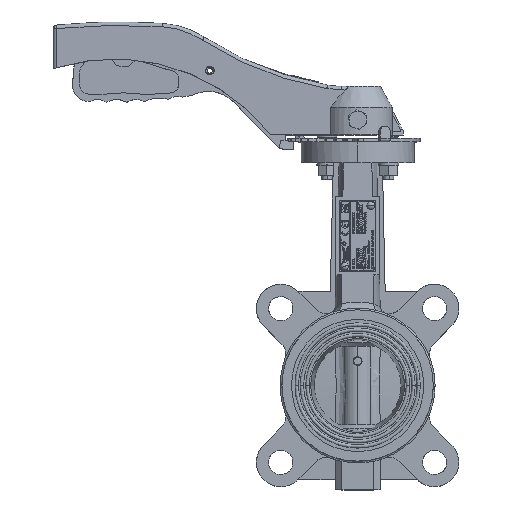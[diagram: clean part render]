
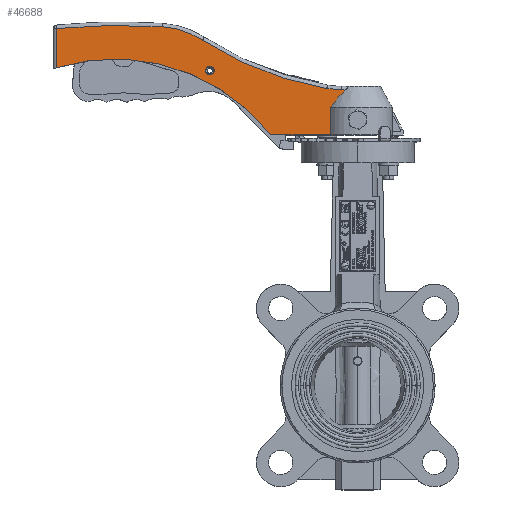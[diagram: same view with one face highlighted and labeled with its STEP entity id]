
A CAD part, top view. The second image highlights one B-rep face of the part: STEP entity #46688.
In plain terms, the highlighted planar face has unit normal (0.003, 0, 1).
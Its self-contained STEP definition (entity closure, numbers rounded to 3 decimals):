
#632 = EDGE_CURVE ( 'NONE', #67588, #65182, #18112, .T. ) ;
#1224 = B_SPLINE_CURVE_WITH_KNOTS ( 'NONE', 3,
 ( #78104, #72272, #72681, #33938, #40648, #14806, #53205, #39821 ),
 .UNSPECIFIED., .F., .F.,
 ( 4, 2, 2, 4 ),
 ( 0., 0.003, 0.007, 0.013 ),
 .UNSPECIFIED. ) ;
#2459 = ORIENTED_EDGE ( 'NONE', *, *, #63568, .F. ) ;
#2718 = EDGE_CURVE ( 'NONE', #50190, #34376, #61790, .T. ) ;
#4566 = CARTESIAN_POINT ( 'NONE',  ( -15.579, 379.049, 12.542 ) ) ;
#5122 = PLANE ( 'NONE',  #82404 ) ;
#6402 = ORIENTED_EDGE ( 'NONE', *, *, #10495, .F. ) ;
#6865 = CARTESIAN_POINT ( 'NONE',  ( -15.579, 144., 12.542 ) ) ;
#7479 = CARTESIAN_POINT ( 'NONE',  ( -132.56, 207.473, 12.853 ) ) ;
#7495 = EDGE_CURVE ( 'NONE', #35796, #81607, #41684, .T. ) ;
#7629 = DIRECTION ( 'NONE',  ( 0.003, 0., 1. ) ) ;
#7812 = DIRECTION ( 'NONE',  ( 0., -1., 0. ) ) ;
#8676 = EDGE_LOOP ( 'NONE', ( #40748, #58801 ) ) ;
#10271 = CARTESIAN_POINT ( 'NONE',  ( -14.878, 170.241, 12.54 ) ) ;
#10495 = EDGE_CURVE ( 'NONE', #46266, #79051, #14962, .T. ) ;
#11268 = DIRECTION ( 'NONE',  ( 0., 1., 0. ) ) ;
#12789 = AXIS2_PLACEMENT_3D ( 'NONE', #58275, #77384, #7812 ) ;
#14806 = CARTESIAN_POINT ( 'NONE',  ( -12.853, 163.565, 12.534 ) ) ;
#14961 = CARTESIAN_POINT ( 'NONE',  ( -172.966, 205.189, 12.96 ) ) ;
#14962 =( BOUNDED_CURVE ( )  B_SPLINE_CURVE ( 3, ( #15890, #22554, #41748, #22145 ),
 .UNSPECIFIED., .F., .T. ) 
 B_SPLINE_CURVE_WITH_KNOTS ( ( 4, 4 ),
 ( 0., 1. ),
 .UNSPECIFIED. ) 
 CURVE ( )  GEOMETRIC_REPRESENTATION_ITEM ( )  RATIONAL_B_SPLINE_CURVE ( ( 1., 0.986, 0.986, 1. ) ) 
 REPRESENTATION_ITEM ( '' )  );
#15890 = CARTESIAN_POINT ( 'NONE',  ( -89.239, 198.529, 12.738 ) ) ;
#16178 = CARTESIAN_POINT ( 'NONE',  ( -6.628, 170.004, 12.518 ) ) ;
#17925 = CARTESIAN_POINT ( 'NONE',  ( -172.966, 144., 12.96 ) ) ;
#18112 =( BOUNDED_CURVE ( )  B_SPLINE_CURVE ( 3, ( #14961, #65815, #7479, #27051 ),
 .UNSPECIFIED., .F., .F. ) 
 B_SPLINE_CURVE_WITH_KNOTS ( ( 4, 4 ),
 ( 0., 1. ),
 .UNSPECIFIED. ) 
 CURVE ( )  GEOMETRIC_REPRESENTATION_ITEM ( )  RATIONAL_B_SPLINE_CURVE ( ( 1., 0.998, 0.998, 1. ) ) 
 REPRESENTATION_ITEM ( '' )  );
#18201 = EDGE_LOOP ( 'NONE', ( #74569, #77525, #70383, #53950, #30088, #6402, #2459, #18442, #42098, #50451 ) ) ;
#18442 = ORIENTED_EDGE ( 'NONE', *, *, #632, .F. ) ;
#19329 = CARTESIAN_POINT ( 'NONE',  ( -17.708, 170.714, 12.547 ) ) ;
#22145 = CARTESIAN_POINT ( 'NONE',  ( -17.708, 170.714, 12.547 ) ) ;
#22554 = CARTESIAN_POINT ( 'NONE',  ( -67.484, 184.388, 12.68 ) ) ;
#24420 = EDGE_CURVE ( 'NONE', #79051, #66182, #57572, .T. ) ;
#25651 =( BOUNDED_CURVE ( )  B_SPLINE_CURVE ( 3, ( #27010, #72801, #65766, #60356 ),
 .UNSPECIFIED., .F., .F. ) 
 B_SPLINE_CURVE_WITH_KNOTS ( ( 4, 4 ),
 ( 0., 1. ),
 .UNSPECIFIED. ) 
 CURVE ( )  GEOMETRIC_REPRESENTATION_ITEM ( )  RATIONAL_B_SPLINE_CURVE ( ( 1., 0.978, 0.978, 1. ) ) 
 REPRESENTATION_ITEM ( '' )  );
#27010 = CARTESIAN_POINT ( 'NONE',  ( -112.35, 206.187, 12.799 ) ) ;
#27051 = CARTESIAN_POINT ( 'NONE',  ( -112.35, 206.187, 12.799 ) ) ;
#30088 = ORIENTED_EDGE ( 'NONE', *, *, #24420, .F. ) ;
#32170 = CARTESIAN_POINT ( 'NONE',  ( -9.149, 170.004, 12.524 ) ) ;
#32561 = CARTESIAN_POINT ( 'NONE',  ( 0.033, 170.004, 12.5 ) ) ;
#33359 = VERTEX_POINT ( 'NONE', #76096 ) ;
#33938 = CARTESIAN_POINT ( 'NONE',  ( -9.905, 166.932, 12.526 ) ) ;
#34213 = CARTESIAN_POINT ( 'NONE',  ( -49.967, 144., 12.633 ) ) ;
#34376 = VERTEX_POINT ( 'NONE', #57357 ) ;
#35796 = VERTEX_POINT ( 'NONE', #52520 ) ;
#36629 = CARTESIAN_POINT ( 'NONE',  ( -84.966, 178.51, 12.726 ) ) ;
#36668 = VERTEX_POINT ( 'NONE', #34213 ) ;
#37937 = VECTOR ( 'NONE', #79530, 1000. ) ;
#38714 = CARTESIAN_POINT ( 'NONE',  ( -84.966, 181.01, 12.726 ) ) ;
#39678 = EDGE_CURVE ( 'NONE', #81607, #36668, #41455, .T. ) ;
#39821 = CARTESIAN_POINT ( 'NONE',  ( -15.579, 160., 12.542 ) ) ;
#39880 = CARTESIAN_POINT ( 'NONE',  ( -89.239, 198.529, 12.738 ) ) ;
#40112 = EDGE_CURVE ( 'NONE', #33359, #36668, #76670, .T. ) ;
#40648 = CARTESIAN_POINT ( 'NONE',  ( -10.657, 166.104, 12.528 ) ) ;
#40748 = ORIENTED_EDGE ( 'NONE', *, *, #2718, .F. ) ;
#41154 = CARTESIAN_POINT ( 'NONE',  ( -12.018, 170.004, 12.532 ) ) ;
#41455 = LINE ( 'NONE', #48560, #75227 ) ;
#41684 = LINE ( 'NONE', #4566, #37937 ) ;
#41748 = CARTESIAN_POINT ( 'NONE',  ( -43.301, 174.985, 12.615 ) ) ;
#41837 = FACE_OUTER_BOUND ( 'NONE', #18201, .T. ) ;
#42098 = ORIENTED_EDGE ( 'NONE', *, *, #73449, .F. ) ;
#46266 = VERTEX_POINT ( 'NONE', #39880 ) ;
#46688 = ADVANCED_FACE ( 'NONE', ( #55204, #41837 ), #5122, .F. ) ;
#46696 = EDGE_CURVE ( 'NONE', #66182, #51600, #50155, .T. ) ;
#47152 = AXIS2_PLACEMENT_3D ( 'NONE', #38714, #82429, #56701 ) ;
#48560 = CARTESIAN_POINT ( 'NONE',  ( 0.033, 144., 12.5 ) ) ;
#49709 = EDGE_CURVE ( 'NONE', #34376, #50190, #70906, .T. ) ;
#50155 = LINE ( 'NONE', #32561, #57205 ) ;
#50190 = VERTEX_POINT ( 'NONE', #36629 ) ;
#50451 = ORIENTED_EDGE ( 'NONE', *, *, #40112, .T. ) ;
#51004 = AXIS2_PLACEMENT_3D ( 'NONE', #69728, #7629, #52257 ) ;
#51600 = VERTEX_POINT ( 'NONE', #16178 ) ;
#51795 = DIRECTION ( 'NONE',  ( -0.003, 0., -1. ) ) ;
#52257 = DIRECTION ( 'NONE',  ( 0., -1., 0. ) ) ;
#52520 = CARTESIAN_POINT ( 'NONE',  ( -15.579, 160., 12.542 ) ) ;
#53205 = CARTESIAN_POINT ( 'NONE',  ( -14.235, 161.799, 12.538 ) ) ;
#53950 = ORIENTED_EDGE ( 'NONE', *, *, #46696, .F. ) ;
#55204 = FACE_BOUND ( 'NONE', #8676, .T. ) ;
#56701 = DIRECTION ( 'NONE',  ( 0., -1., 0. ) ) ;
#57205 = VECTOR ( 'NONE', #58026, 1000. ) ;
#57357 = CARTESIAN_POINT ( 'NONE',  ( -84.966, 183.51, 12.726 ) ) ;
#57572 =( BOUNDED_CURVE ( )  B_SPLINE_CURVE ( 3, ( #71954, #10271, #41154, #72781 ),
 .UNSPECIFIED., .F., .F. ) 
 B_SPLINE_CURVE_WITH_KNOTS ( ( 4, 4 ),
 ( 0., 1. ),
 .UNSPECIFIED. ) 
 CURVE ( )  GEOMETRIC_REPRESENTATION_ITEM ( )  RATIONAL_B_SPLINE_CURVE ( ( 1., 0.998, 0.998, 1. ) ) 
 REPRESENTATION_ITEM ( '' )  );
#58026 = DIRECTION ( 'NONE',  ( 1., 0., -0.003 ) ) ;
#58275 = CARTESIAN_POINT ( 'NONE',  ( -139.483, 74.129, 12.871 ) ) ;
#58801 = ORIENTED_EDGE ( 'NONE', *, *, #49709, .F. ) ;
#59322 = CARTESIAN_POINT ( 'NONE',  ( -172.966, 205.189, 12.96 ) ) ;
#60356 = CARTESIAN_POINT ( 'NONE',  ( -89.239, 198.529, 12.738 ) ) ;
#61790 = CIRCLE ( 'NONE', #47152, 2.5 ) ;
#62763 = EDGE_CURVE ( 'NONE', #51600, #35796, #1224, .T. ) ;
#63249 = CARTESIAN_POINT ( 'NONE',  ( -112.35, 206.187, 12.799 ) ) ;
#63568 = EDGE_CURVE ( 'NONE', #65182, #46266, #25651, .T. ) ;
#64042 = VECTOR ( 'NONE', #11268, 1000. ) ;
#65182 = VERTEX_POINT ( 'NONE', #63249 ) ;
#65766 = CARTESIAN_POINT ( 'NONE',  ( -96.195, 203.05, 12.756 ) ) ;
#65815 = CARTESIAN_POINT ( 'NONE',  ( -152.809, 207.139, 12.907 ) ) ;
#66182 = VERTEX_POINT ( 'NONE', #32170 ) ;
#67588 = VERTEX_POINT ( 'NONE', #59322 ) ;
#69728 = CARTESIAN_POINT ( 'NONE',  ( -84.966, 181.01, 12.726 ) ) ;
#70383 = ORIENTED_EDGE ( 'NONE', *, *, #62763, .F. ) ;
#70492 = CARTESIAN_POINT ( 'NONE',  ( 0.033, 144., 12.5 ) ) ;
#70906 = CIRCLE ( 'NONE', #51004, 2.5 ) ;
#71954 = CARTESIAN_POINT ( 'NONE',  ( -17.708, 170.714, 12.547 ) ) ;
#72272 = CARTESIAN_POINT ( 'NONE',  ( -7.51, 169.293, 12.52 ) ) ;
#72681 = CARTESIAN_POINT ( 'NONE',  ( -8.331, 168.526, 12.522 ) ) ;
#72781 = CARTESIAN_POINT ( 'NONE',  ( -9.149, 170.004, 12.524 ) ) ;
#72801 = CARTESIAN_POINT ( 'NONE',  ( -104.07, 205.66, 12.777 ) ) ;
#73449 = EDGE_CURVE ( 'NONE', #33359, #67588, #80411, .T. ) ;
#74321 = DIRECTION ( 'NONE',  ( -1., 0., 0.003 ) ) ;
#74569 = ORIENTED_EDGE ( 'NONE', *, *, #39678, .F. ) ;
#75227 = VECTOR ( 'NONE', #74321, 1000. ) ;
#76096 = CARTESIAN_POINT ( 'NONE',  ( -172.966, 182.638, 12.96 ) ) ;
#76670 = CIRCLE ( 'NONE', #12789, 113.557 ) ;
#76745 = DIRECTION ( 'NONE',  ( 0., -1., 0. ) ) ;
#77384 = DIRECTION ( 'NONE',  ( -0.003, 0., -1. ) ) ;
#77525 = ORIENTED_EDGE ( 'NONE', *, *, #7495, .F. ) ;
#78104 = CARTESIAN_POINT ( 'NONE',  ( -6.628, 170.004, 12.518 ) ) ;
#79051 = VERTEX_POINT ( 'NONE', #19329 ) ;
#79530 = DIRECTION ( 'NONE',  ( 0., -1., 0. ) ) ;
#80411 = LINE ( 'NONE', #17925, #64042 ) ;
#81607 = VERTEX_POINT ( 'NONE', #6865 ) ;
#82404 = AXIS2_PLACEMENT_3D ( 'NONE', #70492, #51795, #76745 ) ;
#82429 = DIRECTION ( 'NONE',  ( 0.003, 0., 1. ) ) ;
